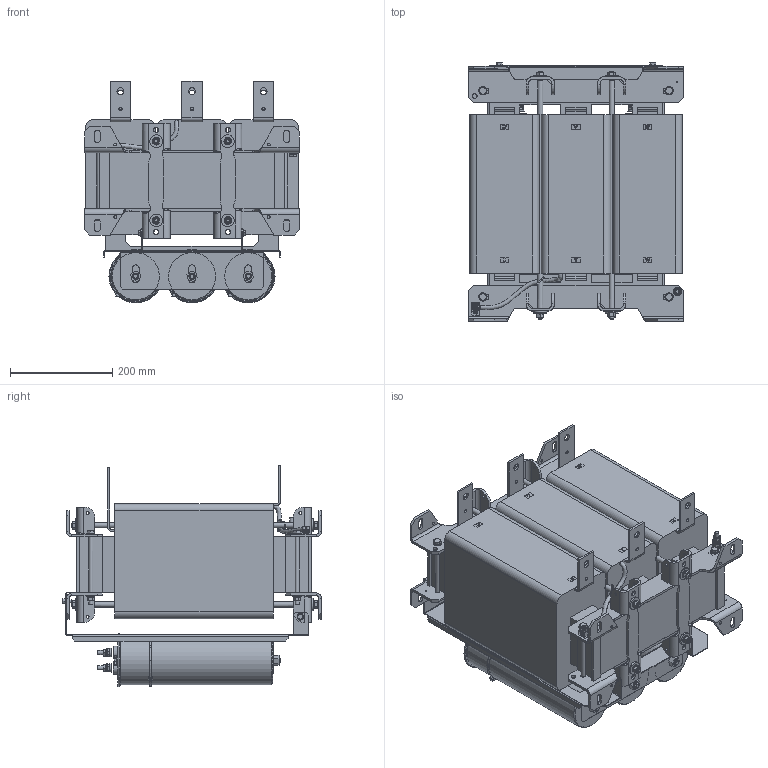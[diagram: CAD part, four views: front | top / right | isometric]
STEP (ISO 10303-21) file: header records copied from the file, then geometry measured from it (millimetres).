
FILE_DESCRIPTION(/* description */ (''),/* implementation_level */ '2;1');
FILE_NAME(/* name */ 'C:\Users\Erika.Jenzer\Desktop\CO20007647\Step Files\FN5420-400-99-E0XXT.stp',/* time_stamp */ '2021-03-02T10:12:18+01:00',/* author */ ('erika.jenzer'),/* organization */ (''),/* preprocessor_version */ 'ST-DEVELOPER v18.1',/* originating_system */ 'Autodesk Inventor 2020',/* authorisation */ '');
FILE_SCHEMA (('AUTOMOTIVE_DESIGN { 1 0 10303 214 3 1 1 }'));
Products named in the file (1): FN5420-400-99-E0XXT
Bounding box: 420 x 505.95 x 434.11 mm (x, y, z)
Volume: 40707891 mm3; surface area: 2130203.7 mm2
Topology: 16 solids, 16 shells, 2443 faces, 6835 edges, 4523 vertices
Faces by surface type: plane 1617, cylinder 585, cone 139, bspline 73, torus 16, sphere 13
Full cylindrical faces by diameter (mm): 1 x1, 2.013 x4, 2.5 x1, 2.8 x5, 3.4 x4, 5.5 x20, 6 x8, 6.6 x6, 8 x41, 8.2 x1, 8.4 x18, 8.6 x12, 9 x12, 9.5 x4, 10.2 x16, 10.5 x7, 11.4 x5, 11.5 x6, 12 x9, 12.5 x3, 13 x4, 13.5 x6, 16 x22, 22 x6, 24.7 x6, 25 x8, 96 x3
Entity records: 85359 total; most frequent: CARTESIAN_POINT 19471, ORIENTED_EDGE 13670, DIRECTION 12749, EDGE_CURVE 6835, VERTEX_POINT 4523, AXIS2_PLACEMENT_3D 4290, LINE 4169, VECTOR 4169
